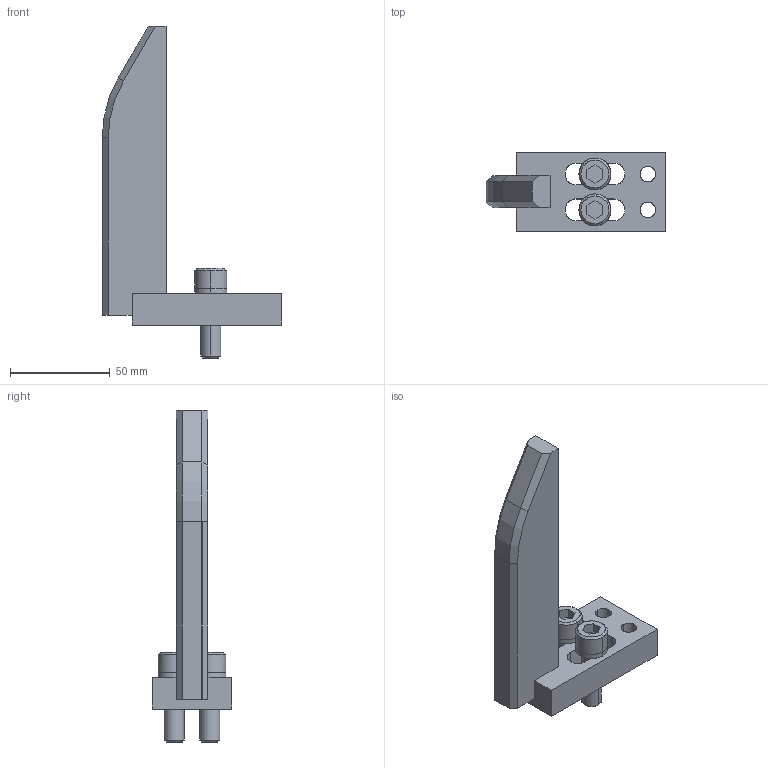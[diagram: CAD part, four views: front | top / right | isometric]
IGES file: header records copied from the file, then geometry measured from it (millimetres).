
Global section: file name: E:\UnigraphicsGraphicData\MISUMI_PRESS-PARTS\IGES\3d_enstc150-40-m10_01437_r00.igs; native system: NX V5.0; preprocessor: UGS NX IGES V5.0; author: MISUMI; date: 20110105.160626; units: millimetre
Bounding box: 90 x 40 x 166.5 mm (x, y, z)
Surface area: 28336.5 mm2 (no closed solid volume)
Topology: 0 solids, 0 shells, 80 faces, 517 edges, 517 vertices
Faces by surface type: bspline 80
